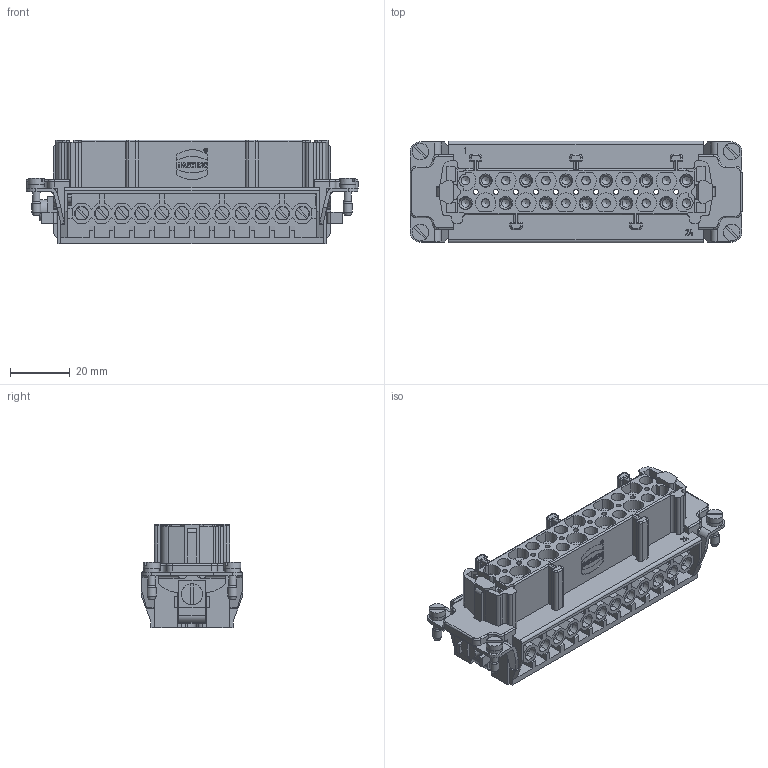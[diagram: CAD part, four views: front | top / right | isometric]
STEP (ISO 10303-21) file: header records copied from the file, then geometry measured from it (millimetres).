
FILE_DESCRIPTION(/* description */ (''),/* implementation_level */ '2;1');
FILE_NAME(/* name */ '100898165ugm000_b.stp',/* time_stamp */ '2022-10-28T07:51:38+02:00',/* author */ (''),/* organization */ (''),/* preprocessor_version */ 'ST-DEVELOPER v16.7',/* originating_system */ 'SIEMENS PLM Software NX 1911',/* authorisation */ '');
FILE_SCHEMA (('AUTOMOTIVE_DESIGN { 1 0 10303 214 3 1 1 1 }'));
Products named in the file (1): 100898165ugm000_b
Bounding box: 110.85 x 33.9 x 34.6 mm (x, y, z)
Volume: 53956.5 mm3; surface area: 41619.9 mm2
Topology: 1 solids, 1 shells, 3259 faces, 9221 edges, 5913 vertices
Faces by surface type: plane 1838, bspline 563, cylinder 552, cone 179, torus 60, extrusion 35, sphere 32
Full cylindrical faces by diameter (mm): 1.139 x1, 1.346 x1, 1.7 x11, 2.5 x37, 2.85 x24, 2.9 x1, 3 x4, 3.05 x24, 3.2 x23, 3.242 x1, 5.3 x4, 5.5 x4, 7 x1
Entity records: 146769 total; most frequent: CARTESIAN_POINT 46464, ORIENTED_EDGE 17200, DIRECTION 14015, EDGE_CURVE 8600, VERTEX_POINT 5712, VECTOR 5237, LINE 5202, AXIS2_PLACEMENT_3D 4389
